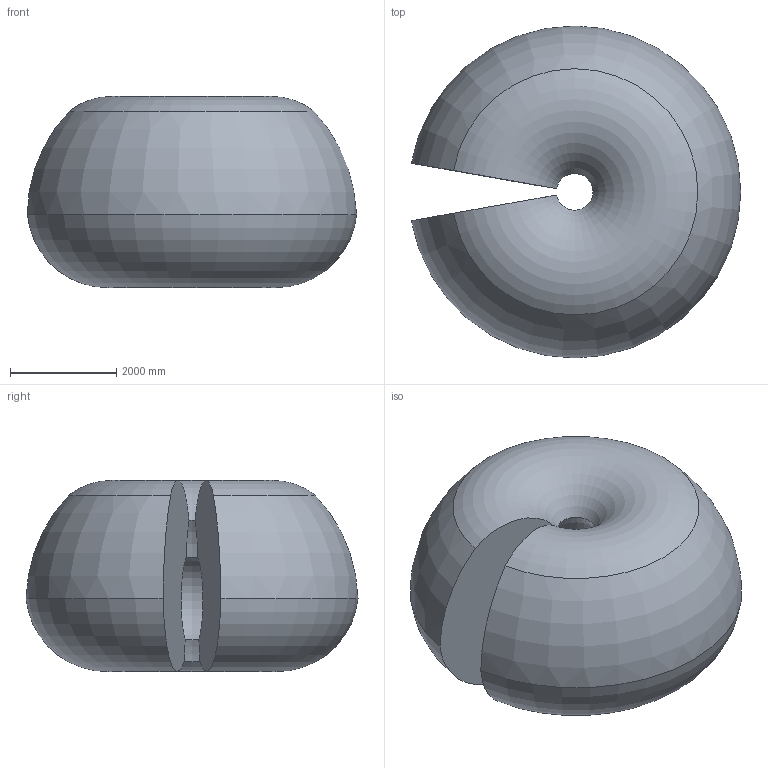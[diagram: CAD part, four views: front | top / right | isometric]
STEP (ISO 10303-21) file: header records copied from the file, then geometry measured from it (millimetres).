
FILE_DESCRIPTION (( 'STEP AP214' ), '1' );
FILE_NAME ('IRB7720_All-310_OC_00_Working-space.step', '2026-01-28T12:47:32', ( '' ), ( '' ), 'SwSTEP 2.0', 'SolidWorks 2024', '' );
FILE_SCHEMA (( 'AUTOMOTIVE_DESIGN' ));
Length unit declared in the file: millimetre
Products named in the file (1): IRB7720_All-310_OC_00_Working-space
Bounding box: 6198.03 x 6245.48 x 3594.26 mm (x, y, z)
Volume: 74598668520.6 mm3; surface area: 123121000.2 mm2
Topology: 1 solids, 1 shells, 8 faces, 18 edges, 12 vertices
Faces by surface type: torus 6, plane 2
Entity records: 263 total; most frequent: DIRECTION 54, CARTESIAN_POINT 39, ORIENTED_EDGE 36, AXIS2_PLACEMENT_3D 27, EDGE_CURVE 18, CIRCLE 18, VERTEX_POINT 12, FACE_OUTER_BOUND 8
